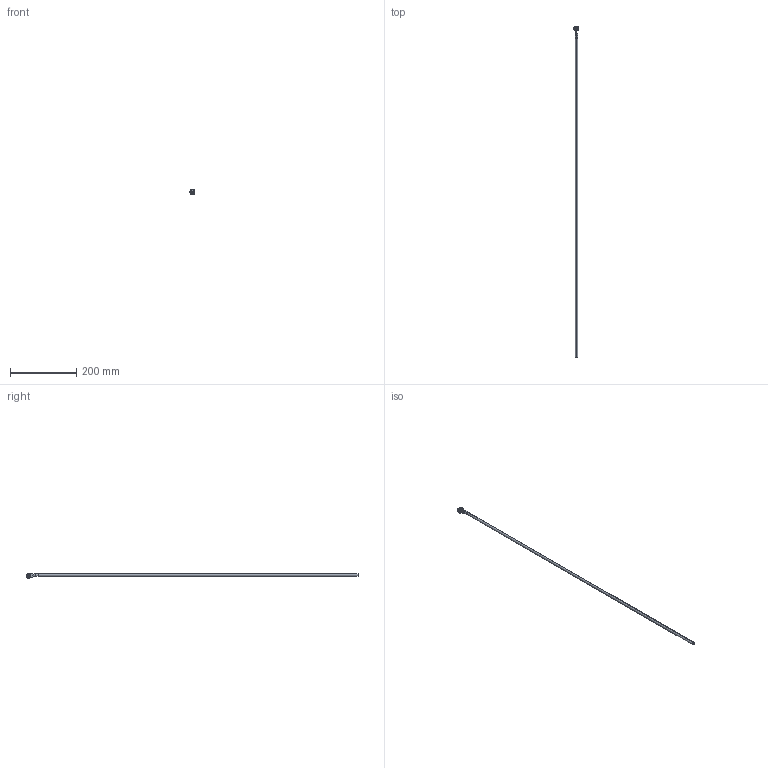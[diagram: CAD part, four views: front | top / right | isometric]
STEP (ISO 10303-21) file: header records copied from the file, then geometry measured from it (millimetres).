
FILE_DESCRIPTION (( 'STEP AP214' ), '1' );
FILE_NAME ('1C.P38-U.L.STEP', '2016-09-08T06:15:20', ( '' ), ( '' ), 'SwSTEP 2.0', 'SolidWorks 2015', '' );
FILE_SCHEMA (( 'AUTOMOTIVE_DESIGN' ));
Length unit declared in the file: millimetre
Products named in the file (5): DIN 125_M4; 1C.ROLKA.02.05.00_A; 1C.905.001_A; 1C.P38-U.L.01_U; 1C.P38-U.L
Assembly tree (5 placements, depth 2):
  1C.P38-U.L
    1C.P38-U.L.01_U
    1C.905.001_A  x2
    1C.ROLKA.02.05.00_A
    DIN 125_M4
Bounding box: 16.6 x 1000 x 15 mm (x, y, z)
Volume: 51714.1 mm3; surface area: 27004.7 mm2
Topology: 5 solids, 5 shells, 56 faces, 123 edges, 77 vertices
Faces by surface type: cylinder 32, plane 14, torus 8, cone 2
Entity records: 1629 total; most frequent: CARTESIAN_POINT 310, DIRECTION 275, ORIENTED_EDGE 210, AXIS2_PLACEMENT_3D 120, EDGE_CURVE 105, VERTEX_POINT 67, CIRCLE 64, EDGE_LOOP 56
